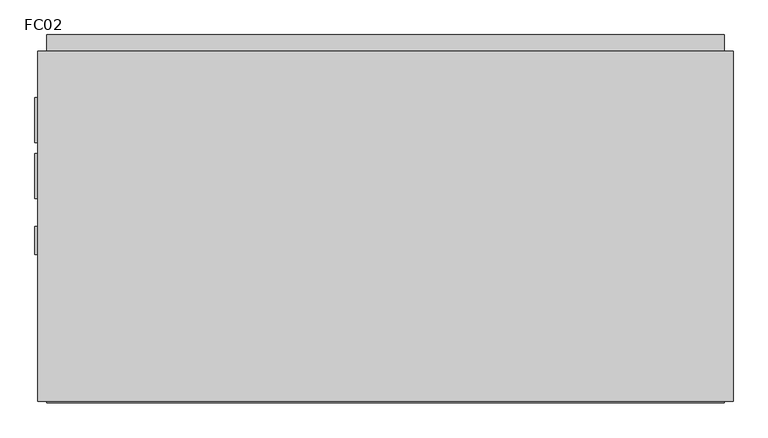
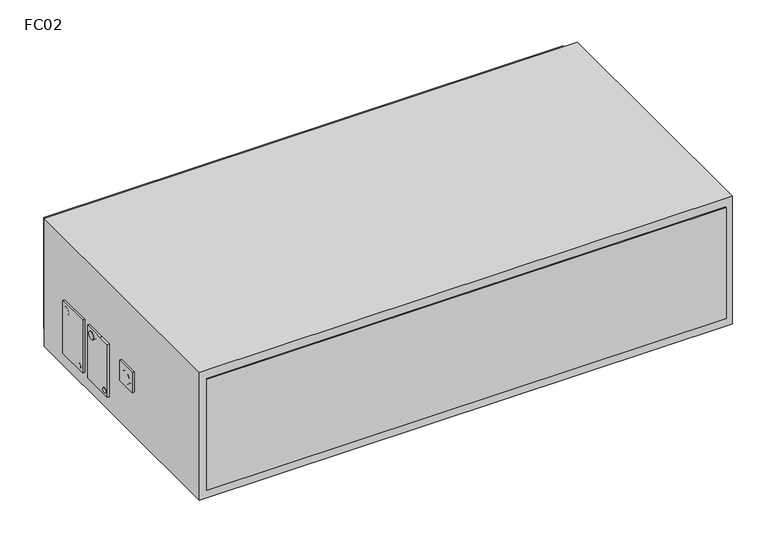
"""IFC4 building model written with IfcOpenShell, lengths in millimetres: proxy geometry, ARC_MDL_ME_UI_FC_ConducteSostre : FC02."""

from ifc_helpers import new_model, si_unit, point, frame, frame_2d, origin, origin_with_axes, place, context, project, spatial, polyline, circle_curve, trimmed, segment, composite_curve, outline, extrude, source, transform, mapped, element, save


def fc02_2b9a1db2(model_context):
    return source(origin(), model_context, "Body", "SweptSolid", [
        extrude(outline(polyline([(-620.0, 0.0), (-620.0, -50.0), (-625.0, -50.0), (-625.0, 0.0), (-620.0, 0.0)])), frame((0.0, 0.0, 107.5), z_axis=(0.0, 0.0, 1.0), x_axis=(1.0, 0.0, 0.0)), (0.0, 0.0, 1.0), 50.0),
        extrude(outline(composite_curve([segment(trimmed(circle_curve(frame_2d((-24.7079935, 130.3304909)), 15.0), [point((-39.7079935, 130.3304909))], [point((-9.7079935, 130.3304909))], False, "CARTESIAN"), True, "CONTINUOUS"), segment(trimmed(circle_curve(frame_2d((-24.7079935, 130.3304909)), 15.0), [point((-9.7079935, 130.3304909))], [point((-39.7079935, 130.3304909))], False, "CARTESIAN"), True, "CONTINUOUS")], self_intersect=False)), frame((-625.0, 0.0, 0.0), z_axis=(1.0, 0.0, 0.0), x_axis=(0.0, 1.0, 0.0)), (0.0, 0.0, 1.0), 21.0),
        extrude(outline(composite_curve([segment(trimmed(circle_curve(frame_2d((114.7963752, 148.4371519)), 9.5), [point((105.2963752, 148.4371519))], [point((124.2963752, 148.4371519))], False, "CARTESIAN"), True, "CONTINUOUS"), segment(trimmed(circle_curve(frame_2d((114.7963752, 148.4371519)), 9.5), [point((124.2963752, 148.4371519))], [point((105.2963752, 148.4371519))], False, "CARTESIAN"), True, "CONTINUOUS")], self_intersect=False)), frame((-625.0, 0.0, 0.0), z_axis=(1.0, 0.0, 0.0), x_axis=(0.0, 1.0, 0.0)), (0.0, 0.0, 1.0), 21.0),
        extrude(outline(composite_curve([segment(trimmed(circle_curve(frame_2d((62.2775327, 46.100092)), 6.0), [point((56.2775327, 46.100092))], [point((68.2775327, 46.100092))], False, "CARTESIAN"), True, "CONTINUOUS"), segment(trimmed(circle_curve(frame_2d((62.2775327, 46.100092)), 6.0), [point((68.2775327, 46.100092))], [point((56.2775327, 46.100092))], False, "CARTESIAN"), True, "CONTINUOUS")], self_intersect=False)), frame((-625.0, 0.0, 0.0), z_axis=(1.0, 0.0, 0.0), x_axis=(0.0, 1.0, 0.0)), (0.0, 0.0, 1.0), 21.0),
        extrude(outline(polyline([(-620.0, 130.0), (-620.0, 50.0), (-625.0, 50.0), (-625.0, 130.0), (-620.0, 130.0)])), frame((0.0, 0.0, 35.0), z_axis=(0.0, 0.0, 1.0), x_axis=(1.0, 0.0, 0.0)), (0.0, 0.0, 1.0), 130.0),
        extrude(outline(polyline([(-620.0, 230.0), (-620.0, 150.0), (-625.0, 150.0), (-625.0, 230.0), (-620.0, 230.0)])), frame((0.0, 0.0, 35.0), z_axis=(0.0, 0.0, 1.0), x_axis=(1.0, 0.0, 0.0)), (0.0, 0.0, 1.0), 130.0),
        extrude(outline(composite_curve([segment(trimmed(circle_curve(frame_2d((214.7963752, 148.4371519)), 9.5), [point((205.2963752, 148.4371519))], [point((224.2963752, 148.4371519))], False, "CARTESIAN"), True, "CONTINUOUS"), segment(trimmed(circle_curve(frame_2d((214.7963752, 148.4371519)), 9.5), [point((224.2963752, 148.4371519))], [point((205.2963752, 148.4371519))], False, "CARTESIAN"), True, "CONTINUOUS")], self_intersect=False)), frame((-625.0, 0.0, 0.0), z_axis=(1.0, 0.0, 0.0), x_axis=(0.0, 1.0, 0.0)), (0.0, 0.0, 1.0), 21.0),
        extrude(outline(composite_curve([segment(trimmed(circle_curve(frame_2d((162.2775327, 46.100092)), 6.0), [point((156.2775327, 46.100092))], [point((168.2775327, 46.100092))], False, "CARTESIAN"), True, "CONTINUOUS"), segment(trimmed(circle_curve(frame_2d((162.2775327, 46.100092)), 6.0), [point((168.2775327, 46.100092))], [point((156.2775327, 46.100092))], False, "CARTESIAN"), True, "CONTINUOUS")], self_intersect=False)), frame((-625.0, 0.0, 0.0), z_axis=(1.0, 0.0, 0.0), x_axis=(0.0, 1.0, 0.0)), (0.0, 0.0, 1.0), 21.0),
        extrude(outline(polyline([(604.0, -315.0), (-604.0, -315.0), (-604.0, 342.0), (604.0, 342.0), (604.0, -315.0)])), frame((0.0, 0.0, 21.0), z_axis=(0.0, 0.0, 1.0), x_axis=(1.0, 0.0, 0.0)), (0.0, 0.0, 1.0), 273.0),
        extrude(outline(polyline([(620.0, 312.5), (620.0, -312.5), (-620.0, -312.5), (-620.0, 312.5), (620.0, 312.5)])), origin_with_axes(), (0.0, 0.0, 1.0), 315.0),
    ])


if __name__ == "__main__":
    model = new_model("IFC4")
    model_context = context("Model", 3, world=origin())
    ifc_project = project(units=[si_unit("LENGTHUNIT", "METRE", prefix="MILLI")], contexts=[model_context])
    site = spatial("IfcSite", under=ifc_project)
    building = spatial("IfcBuilding", under=site)
    placement = place(None, origin())
    fc02_shape = fc02_2b9a1db2(model_context)
    element("IfcBuildingElementProxy", 1, Name="ARC_MDL_ME_UI_FC_ConducteSostre : FC02", ObjectType="ARC_MDL_ME_UI_FC_ConducteSostre : FC02", at=placement, inside=building, context=model_context, shape_type="MappedRepresentation", body=[
        mapped(fc02_shape, transform((0.0, 0.0, 0.0), x_axis=(1.0, 0.0, 0.0), y_axis=(0.0, 1.0, 0.0), z_axis=(0.0, 0.0, 1.0))),
    ])
    save(model, "model.ifc")
